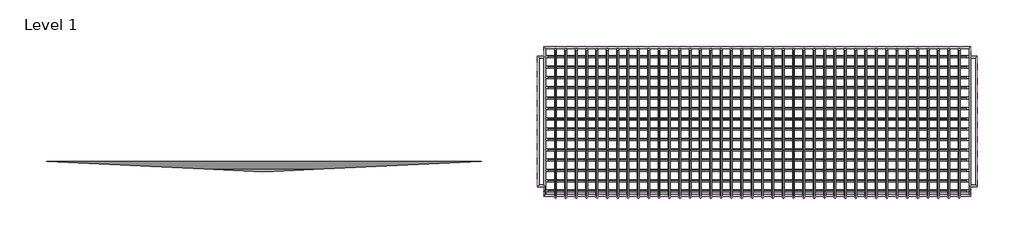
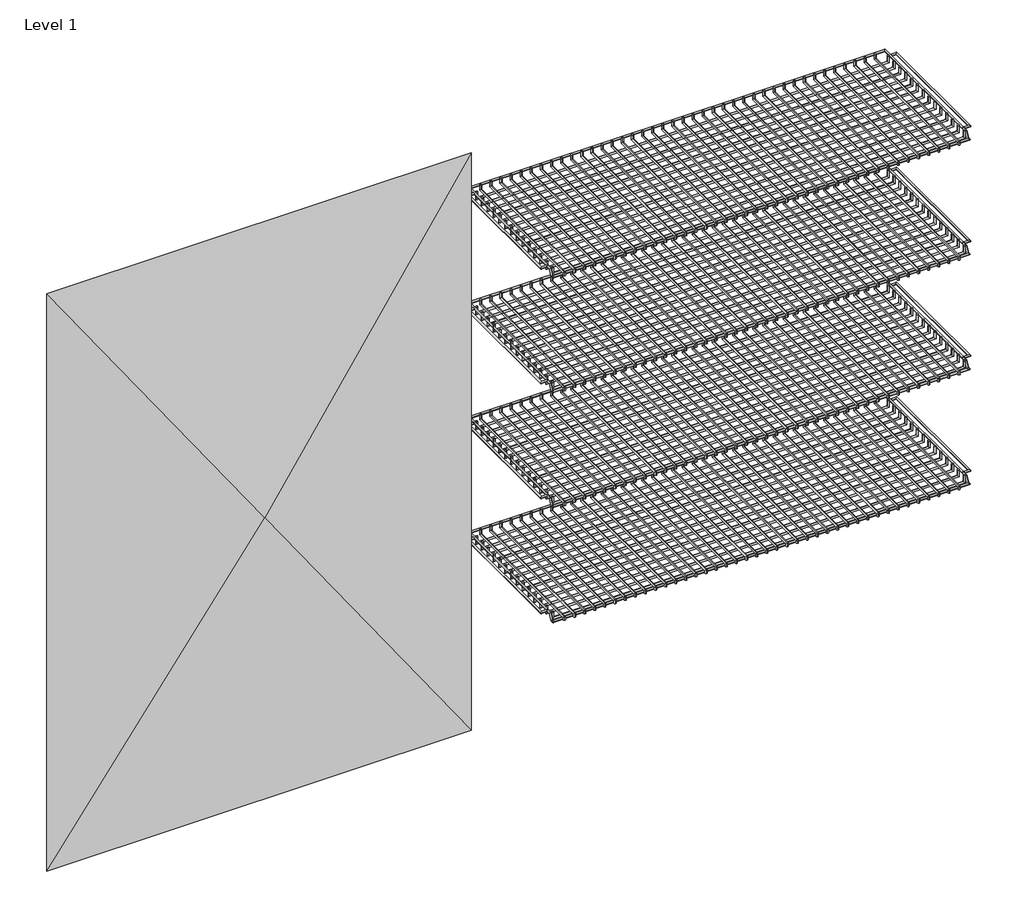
# One storey, incomplete: 5 furniture elements.
"""IFC4 building model written with IfcOpenShell, lengths in millimetres."""

from ifc_helpers import new_model, si_unit, origin, place, context, project, spatial, transform, mapped, element, save
from components import furniture_c81ed478, sr_22_dbl_wide_wire_shelf_071ba13a, sr_22_dbl_wide_wire_shelf_bf86c19f, sr_22_dbl_wide_wire_shelf_4a8b3b1c, sr_22_dbl_wide_wire_shelf_ef2946c3, sr_22_dbl_wide_wire_shelf_2b35090b, sr_22_dbl_wide_wire_shelf_477b4204, sr_22_dbl_wide_wire_shelf_ce08453b, sr_22_dbl_wide_wire_shelf_813cd4cb, sr_22_dbl_wide_wire_shelf_9923fb06, sr_22_dbl_wide_wire_shelf_e24182ef, sr_22_dbl_wide_wire_shelf_7f391bb4, sr_22_dbl_wide_wire_shelf_d6008d9c, sr_22_dbl_wide_wire_shelf_5bae1492, sr_22_dbl_wide_wire_shelf_6467912a, sr_22_dbl_wide_wire_shelf_81aa6d03, sr_22_dbl_wide_wire_shelf_b94fb90b

model = new_model("IFC4")

# Units and contexts
model_context = context("Model", 3, world=origin())
ifc_project = project(units=[si_unit("LENGTHUNIT", "METRE", prefix="MILLI")], contexts=[model_context])

# Site, building, storey
site = spatial("IfcSite", under=ifc_project)
building = spatial("IfcBuilding", under=site)
storey = spatial("IfcBuildingStorey", under=building, Name="Level 1", Elevation=0.0)

# Furniture
placement = place(None, origin())
furniture_shape = furniture_c81ed478(model_context)
element("IfcFurniture", 1, ObjectType="HermanMiller_Carts_CT703_Curtain : 20\"W Dbl-Wide", at=placement, inside=storey, context=model_context, shape_type="MappedRepresentation", body=[
    mapped(furniture_shape, transform((-1209.7289803, -578.4643373, -1033.5021777), x_axis=(1.0, 0.0, 0.0), y_axis=(0.0, 1.0, 0.0), z_axis=(0.0, 0.0, 1.0))),
])
sr_22_dbl_wide_wire_shelf_shape = sr_22_dbl_wide_wire_shelf_071ba13a(model_context)
sr_22_dbl_wide_wire_shelf_2_shape = sr_22_dbl_wide_wire_shelf_bf86c19f(model_context)
sr_22_dbl_wide_wire_shelf_3_shape = sr_22_dbl_wide_wire_shelf_4a8b3b1c(model_context)
sr_22_dbl_wide_wire_shelf_4_shape = sr_22_dbl_wide_wire_shelf_ef2946c3(model_context)
element("IfcFurniture", 2, ObjectType="HermanMiller_Carts_CT521_CartShelf : Sr 22 Dbl-Wide Wire Shelf", at=placement, inside=storey, context=model_context, shape_type="MappedRepresentation", body=[
    mapped(sr_22_dbl_wide_wire_shelf_shape, transform((425.9912991, -372.0893373, -1033.5021777), x_axis=(1.0, 0.0, 0.0), y_axis=(0.0, 1.0, 0.0), z_axis=(0.0, 0.0, 1.0))),
    mapped(sr_22_dbl_wide_wire_shelf_2_shape, transform((425.9912991, -372.0893373, -1033.5021777), x_axis=(1.0, 0.0, 0.0), y_axis=(0.0, 1.0, 0.0), z_axis=(0.0, 0.0, 1.0))),
    mapped(sr_22_dbl_wide_wire_shelf_3_shape, transform((425.9912991, -372.0893373, -1033.5021777), x_axis=(1.0, 0.0, 0.0), y_axis=(0.0, 1.0, 0.0), z_axis=(0.0, 0.0, 1.0))),
    mapped(sr_22_dbl_wide_wire_shelf_4_shape, transform((425.9912991, -372.0893373, -1033.5021777), x_axis=(1.0, 0.0, 0.0), y_axis=(0.0, 1.0, 0.0), z_axis=(0.0, 0.0, 1.0))),
])
sr_22_dbl_wide_wire_shelf_5_shape = sr_22_dbl_wide_wire_shelf_2b35090b(model_context)
sr_22_dbl_wide_wire_shelf_6_shape = sr_22_dbl_wide_wire_shelf_477b4204(model_context)
sr_22_dbl_wide_wire_shelf_7_shape = sr_22_dbl_wide_wire_shelf_ce08453b(model_context)
sr_22_dbl_wide_wire_shelf_8_shape = sr_22_dbl_wide_wire_shelf_813cd4cb(model_context)
element("IfcFurniture", 3, ObjectType="HermanMiller_Carts_CT521_CartShelf : Sr 22 Dbl-Wide Wire Shelf", at=placement, inside=storey, context=model_context, shape_type="MappedRepresentation", body=[
    mapped(sr_22_dbl_wide_wire_shelf_5_shape, transform((425.9912991, -372.0893373, -1033.5021777), x_axis=(1.0, 0.0, 0.0), y_axis=(0.0, 1.0, 0.0), z_axis=(0.0, 0.0, 1.0))),
    mapped(sr_22_dbl_wide_wire_shelf_6_shape, transform((425.9912991, -372.0893373, -1033.5021777), x_axis=(1.0, 0.0, 0.0), y_axis=(0.0, 1.0, 0.0), z_axis=(0.0, 0.0, 1.0))),
    mapped(sr_22_dbl_wide_wire_shelf_7_shape, transform((425.9912991, -372.0893373, -1033.5021777), x_axis=(1.0, 0.0, 0.0), y_axis=(0.0, 1.0, 0.0), z_axis=(0.0, 0.0, 1.0))),
    mapped(sr_22_dbl_wide_wire_shelf_8_shape, transform((425.9912991, -372.0893373, -1033.5021777), x_axis=(1.0, 0.0, 0.0), y_axis=(0.0, 1.0, 0.0), z_axis=(0.0, 0.0, 1.0))),
])
sr_22_dbl_wide_wire_shelf_9_shape = sr_22_dbl_wide_wire_shelf_9923fb06(model_context)
sr_22_dbl_wide_wire_shelf_10_shape = sr_22_dbl_wide_wire_shelf_e24182ef(model_context)
sr_22_dbl_wide_wire_shelf_11_shape = sr_22_dbl_wide_wire_shelf_7f391bb4(model_context)
sr_22_dbl_wide_wire_shelf_12_shape = sr_22_dbl_wide_wire_shelf_d6008d9c(model_context)
element("IfcFurniture", 4, ObjectType="HermanMiller_Carts_CT521_CartShelf : Sr 22 Dbl-Wide Wire Shelf", at=placement, inside=storey, context=model_context, shape_type="MappedRepresentation", body=[
    mapped(sr_22_dbl_wide_wire_shelf_9_shape, transform((425.9912991, -372.0893373, -1033.5021777), x_axis=(1.0, 0.0, 0.0), y_axis=(0.0, 1.0, 0.0), z_axis=(0.0, 0.0, 1.0))),
    mapped(sr_22_dbl_wide_wire_shelf_10_shape, transform((425.9912991, -372.0893373, -1033.5021777), x_axis=(1.0, 0.0, 0.0), y_axis=(0.0, 1.0, 0.0), z_axis=(0.0, 0.0, 1.0))),
    mapped(sr_22_dbl_wide_wire_shelf_11_shape, transform((425.9912991, -372.0893373, -1033.5021777), x_axis=(1.0, 0.0, 0.0), y_axis=(0.0, 1.0, 0.0), z_axis=(0.0, 0.0, 1.0))),
    mapped(sr_22_dbl_wide_wire_shelf_12_shape, transform((425.9912991, -372.0893373, -1033.5021777), x_axis=(1.0, 0.0, 0.0), y_axis=(0.0, 1.0, 0.0), z_axis=(0.0, 0.0, 1.0))),
])
sr_22_dbl_wide_wire_shelf_13_shape = sr_22_dbl_wide_wire_shelf_5bae1492(model_context)
sr_22_dbl_wide_wire_shelf_14_shape = sr_22_dbl_wide_wire_shelf_6467912a(model_context)
sr_22_dbl_wide_wire_shelf_15_shape = sr_22_dbl_wide_wire_shelf_81aa6d03(model_context)
sr_22_dbl_wide_wire_shelf_16_shape = sr_22_dbl_wide_wire_shelf_b94fb90b(model_context)
element("IfcFurniture", 5, ObjectType="HermanMiller_Carts_CT521_CartShelf : Sr 22 Dbl-Wide Wire Shelf", at=placement, inside=storey, context=model_context, shape_type="MappedRepresentation", body=[
    mapped(sr_22_dbl_wide_wire_shelf_13_shape, transform((425.9912991, -372.0893373, -1033.5021777), x_axis=(1.0, 0.0, 0.0), y_axis=(0.0, 1.0, 0.0), z_axis=(0.0, 0.0, 1.0))),
    mapped(sr_22_dbl_wide_wire_shelf_14_shape, transform((425.9912991, -372.0893373, -1033.5021777), x_axis=(1.0, 0.0, 0.0), y_axis=(0.0, 1.0, 0.0), z_axis=(0.0, 0.0, 1.0))),
    mapped(sr_22_dbl_wide_wire_shelf_15_shape, transform((425.9912991, -372.0893373, -1033.5021777), x_axis=(1.0, 0.0, 0.0), y_axis=(0.0, 1.0, 0.0), z_axis=(0.0, 0.0, 1.0))),
    mapped(sr_22_dbl_wide_wire_shelf_16_shape, transform((425.9912991, -372.0893373, -1033.5021777), x_axis=(1.0, 0.0, 0.0), y_axis=(0.0, 1.0, 0.0), z_axis=(0.0, 0.0, 1.0))),
])

save(model, "model.ifc")
